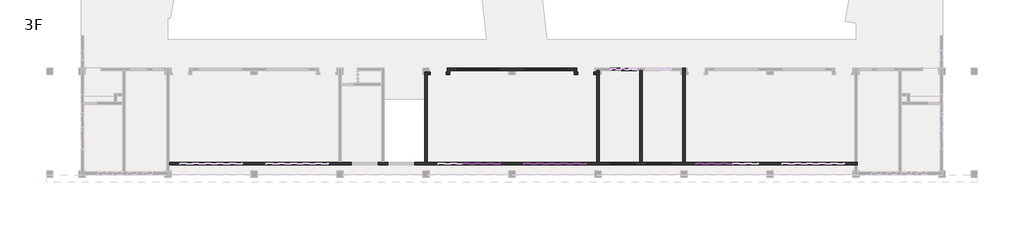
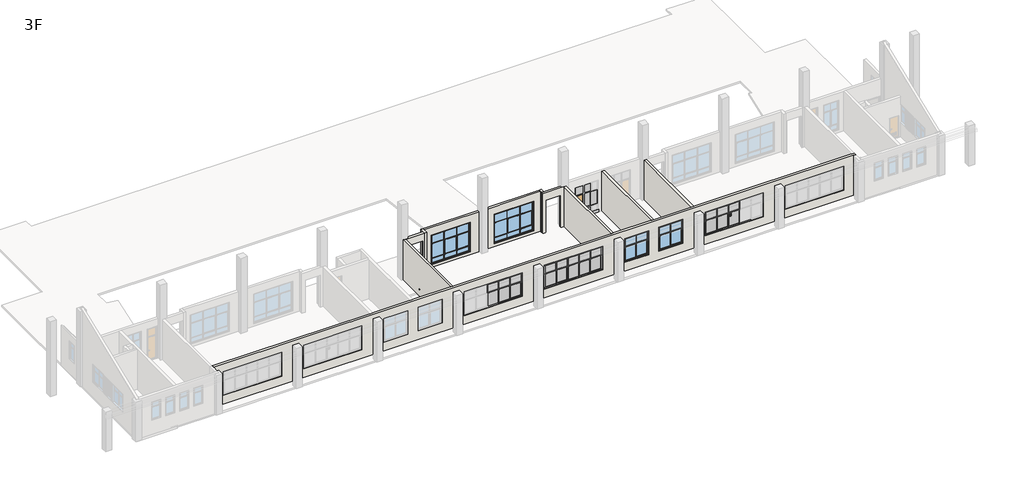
# One storey, part 3 of 9: 61 members, 23 plates, 10 walls, 4 windows, 1 door.
"""IFC4 building model written with IfcOpenShell, lengths in millimetres."""

from ifc_helpers import new_model, si_unit, frame, origin, place, context, project, spatial, polyline, outline, extrude, faceted_brep, transform, mapped, element, save
from components import door_980b777d, member_7564be38, member_1f4d75dd, member_0b7842ad, member_163d5e45, member_ffafc35e, member_2b011958, member_9c26cac3, member_6c42befd, member_a374fdad, member_d4bc27cc, member_c89433b5, member_21953a3b, member_fbd0fd80, member_b6ae775c, plate_f4dba16c, plate_1cc4df2b, plate_4fa5932a, plate_00f9c624, plate_18a10205, plate_942ffe46, plate_457c613e, plate_cc9028c0, plate_bfe47d88, plate_3a849303, lc4_lc4_4954e093, lc5_lc5_9ec79463

model = new_model("IFC4")

# Units and contexts
model_context = context("Model", 3, world=origin())
ifc_project = project(units=[si_unit("LENGTHUNIT", "METRE", prefix="MILLI")], contexts=[model_context])

# Site, building, storey
site = spatial("IfcSite", under=ifc_project)
building = spatial("IfcBuilding", under=site)
storey = spatial("IfcBuildingStorey", under=building, Name="3F", Elevation=8400.0)

# Door
placement = place(None, origin())
door_shape = door_980b777d(model_context)
element("IfcDoor", 1, ObjectType="门嵌板_单开门2 : 门嵌板_单开门2", at=placement, inside=storey, context=model_context, shape_type="MappedRepresentation", body=[
    mapped(door_shape, transform((52699.9999993, 9800.304536, 8500.0), x_axis=(-1.0, 0.0, 0.0), y_axis=(0.0, -1.0, 0.0), z_axis=(0.0, 0.0, 1.0))),
])

# Members
member_shape = member_7564be38(model_context)
element("IfcMember", 2, ObjectType="矩形竖梃 : 教学楼 – 矩形竖梃 – 100x150mm", at=placement, inside=storey, context=model_context, shape_type="MappedRepresentation", body=[
    mapped(member_shape, transform((41900.0, 990.0, 11800.0), x_axis=(0.0, 0.0, 1.0), y_axis=(0.0, -1.0, 0.0), z_axis=(1.0, 0.0, 0.0))),
])
element("IfcMember", 3, ObjectType="矩形竖梃 : 教学楼 – 矩形竖梃 – 100x150mm", at=placement, inside=storey, context=model_context, shape_type="MappedRepresentation", body=[
    mapped(member_shape, transform((49900.0, 990.0, 11800.0), x_axis=(0.0, 0.0, 1.0), y_axis=(0.0, -1.0, 0.0), z_axis=(1.0, 0.0, 0.0))),
])
element("IfcMember", 4, ObjectType="矩形竖梃 : 教学楼 – 矩形竖梃 – 100x150mm", at=placement, inside=storey, context=model_context, shape_type="MappedRepresentation", body=[
    mapped(member_shape, transform((44100.0, 990.0, 9300.0), x_axis=(0.0, 0.0, -1.0), y_axis=(0.0, -1.0, 0.0), z_axis=(-1.0, 0.0, 0.0))),
])
element("IfcMember", 5, ObjectType="矩形竖梃 : 教学楼 – 矩形竖梃 – 100x150mm", at=placement, inside=storey, context=model_context, shape_type="MappedRepresentation", body=[
    mapped(member_shape, transform((60100.0, 990.0, 9300.0), x_axis=(0.0, 0.0, -1.0), y_axis=(0.0, -1.0, 0.0), z_axis=(-1.0, 0.0, 0.0))),
])
member_2_shape = member_1f4d75dd(model_context)
element("IfcMember", 6, ObjectType="矩形竖梃 : 教学楼 – 矩形竖梃 – 50x150mm", at=placement, inside=storey, context=model_context, shape_type="MappedRepresentation", body=[
    mapped(member_2_shape, transform((39550.0, 990.0, 9400.0), x_axis=(1.0, 0.0, 0.0), y_axis=(0.0, -1.0, 0.0), z_axis=(0.0, 0.0, -1.0))),
])
element("IfcMember", 7, ObjectType="矩形竖梃 : 教学楼 – 矩形竖梃 – 50x150mm", at=placement, inside=storey, context=model_context, shape_type="MappedRepresentation", body=[
    mapped(member_2_shape, transform((46450.0, 990.0, 9400.0), x_axis=(1.0, 0.0, 0.0), y_axis=(0.0, -1.0, 0.0), z_axis=(0.0, 0.0, -1.0))),
])
element("IfcMember", 8, ObjectType="矩形竖梃 : 教学楼 – 矩形竖梃 – 50x150mm", at=placement, inside=storey, context=model_context, shape_type="MappedRepresentation", body=[
    mapped(member_2_shape, transform((47550.0, 990.0, 9400.0), x_axis=(1.0, 0.0, 0.0), y_axis=(0.0, -1.0, 0.0), z_axis=(0.0, 0.0, -1.0))),
])
element("IfcMember", 9, ObjectType="矩形竖梃 : 教学楼 – 矩形竖梃 – 50x150mm", at=placement, inside=storey, context=model_context, shape_type="MappedRepresentation", body=[
    mapped(member_2_shape, transform((62450.0, 990.0, 9400.0), x_axis=(1.0, 0.0, 0.0), y_axis=(0.0, -1.0, 0.0), z_axis=(0.0, 0.0, -1.0))),
])
element("IfcMember", 10, ObjectType="矩形竖梃 : 教学楼 – 矩形竖梃 – 50x150mm", at=placement, inside=storey, context=model_context, shape_type="MappedRepresentation", body=[
    mapped(member_2_shape, transform((63550.0, 990.0, 9400.0), x_axis=(1.0, 0.0, 0.0), y_axis=(0.0, -1.0, 0.0), z_axis=(0.0, 0.0, -1.0))),
])
member_3_shape = member_0b7842ad(model_context)
element("IfcMember", 11, ObjectType="矩形竖梃 : 教学楼 – 矩形竖梃 – 50x150mm", at=placement, inside=storey, context=model_context, shape_type="MappedRepresentation", body=[
    mapped(member_3_shape, transform((45300.0, 990.0, 10850.0), x_axis=(0.0, 0.0, 1.0), y_axis=(0.0, -1.0, 0.0), z_axis=(1.0, 0.0, 0.0))),
])
element("IfcMember", 12, ObjectType="矩形竖梃 : 教学楼 – 矩形竖梃 – 50x150mm", at=placement, inside=storey, context=model_context, shape_type="MappedRepresentation", body=[
    mapped(member_3_shape, transform((61300.0, 990.0, 10850.0), x_axis=(0.0, 0.0, 1.0), y_axis=(0.0, -1.0, 0.0), z_axis=(1.0, 0.0, 0.0))),
])
member_4_shape = member_163d5e45(model_context)
element("IfcMember", 13, ObjectType="矩形竖梃 : 教学楼 – 矩形竖梃 – 50x150mm", at=placement, inside=storey, context=model_context, shape_type="MappedRepresentation", body=[
    mapped(member_4_shape, transform((40700.0, 990.0, 10850.0), x_axis=(0.0, 0.0, 1.0), y_axis=(0.0, -1.0, 0.0), z_axis=(1.0, 0.0, 0.0))),
])
element("IfcMember", 14, ObjectType="矩形竖梃 : 教学楼 – 矩形竖梃 – 50x150mm", at=placement, inside=storey, context=model_context, shape_type="MappedRepresentation", body=[
    mapped(member_4_shape, transform((46450.0, 990.0, 10850.0), x_axis=(0.0, 0.0, 1.0), y_axis=(0.0, -1.0, 0.0), z_axis=(1.0, 0.0, 0.0))),
])
element("IfcMember", 15, ObjectType="矩形竖梃 : 教学楼 – 矩形竖梃 – 50x150mm", at=placement, inside=storey, context=model_context, shape_type="MappedRepresentation", body=[
    mapped(member_4_shape, transform((48700.0, 990.0, 10850.0), x_axis=(0.0, 0.0, 1.0), y_axis=(0.0, -1.0, 0.0), z_axis=(1.0, 0.0, 0.0))),
])
element("IfcMember", 16, ObjectType="矩形竖梃 : 教学楼 – 矩形竖梃 – 50x150mm", at=placement, inside=storey, context=model_context, shape_type="MappedRepresentation", body=[
    mapped(member_4_shape, transform((62450.0, 990.0, 10850.0), x_axis=(0.0, 0.0, 1.0), y_axis=(0.0, -1.0, 0.0), z_axis=(1.0, 0.0, 0.0))),
])
element("IfcMember", 17, ObjectType="矩形竖梃 : 教学楼 – 矩形竖梃 – 50x150mm", at=placement, inside=storey, context=model_context, shape_type="MappedRepresentation", body=[
    mapped(member_3_shape, transform((39550.0, 990.0, 10850.0), x_axis=(0.0, 0.0, 1.0), y_axis=(0.0, -1.0, 0.0), z_axis=(1.0, 0.0, 0.0))),
])
element("IfcMember", 18, ObjectType="矩形竖梃 : 教学楼 – 矩形竖梃 – 50x150mm", at=placement, inside=storey, context=model_context, shape_type="MappedRepresentation", body=[
    mapped(member_3_shape, transform((47550.0, 990.0, 10850.0), x_axis=(0.0, 0.0, 1.0), y_axis=(0.0, -1.0, 0.0), z_axis=(1.0, 0.0, 0.0))),
])
element("IfcMember", 19, ObjectType="矩形竖梃 : 教学楼 – 矩形竖梃 – 50x150mm", at=placement, inside=storey, context=model_context, shape_type="MappedRepresentation", body=[
    mapped(member_3_shape, transform((63550.0, 990.0, 10850.0), x_axis=(0.0, 0.0, 1.0), y_axis=(0.0, -1.0, 0.0), z_axis=(1.0, 0.0, 0.0))),
])
element("IfcMember", 20, ObjectType="矩形竖梃 : 教学楼 – 矩形竖梃 – 50x150mm", at=placement, inside=storey, context=model_context, shape_type="MappedRepresentation", body=[
    mapped(member_3_shape, transform((41800.0, 990.0, 10850.0), x_axis=(0.0, 0.0, 1.0), y_axis=(0.0, -1.0, 0.0), z_axis=(1.0, 0.0, 0.0))),
])
element("IfcMember", 21, ObjectType="矩形竖梃 : 教学楼 – 矩形竖梃 – 50x150mm", at=placement, inside=storey, context=model_context, shape_type="MappedRepresentation", body=[
    mapped(member_3_shape, transform((49800.0, 990.0, 10850.0), x_axis=(0.0, 0.0, 1.0), y_axis=(0.0, -1.0, 0.0), z_axis=(1.0, 0.0, 0.0))),
])
member_5_shape = member_ffafc35e(model_context)
element("IfcMember", 22, ObjectType="矩形竖梃 : 教学楼 – 矩形竖梃 – 100x150mm", at=placement, inside=storey, context=model_context, shape_type="MappedRepresentation", body=[
    mapped(member_5_shape, transform((45300.0, 990.0, 9300.0), x_axis=(0.0, 0.0, -1.0), y_axis=(0.0, -1.0, 0.0), z_axis=(-1.0, 0.0, 0.0))),
])
element("IfcMember", 23, ObjectType="矩形竖梃 : 教学楼 – 矩形竖梃 – 100x150mm", at=placement, inside=storey, context=model_context, shape_type="MappedRepresentation", body=[
    mapped(member_5_shape, transform((61300.0, 990.0, 9300.0), x_axis=(0.0, 0.0, -1.0), y_axis=(0.0, -1.0, 0.0), z_axis=(-1.0, 0.0, 0.0))),
])
member_6_shape = member_2b011958(model_context)
element("IfcMember", 24, ObjectType="矩形竖梃 : 教学楼 – 矩形竖梃 – 100x150mm", at=placement, inside=storey, context=model_context, shape_type="MappedRepresentation", body=[
    mapped(member_6_shape, transform((46450.0, 990.0, 9300.0), x_axis=(0.0, 0.0, -1.0), y_axis=(0.0, -1.0, 0.0), z_axis=(-1.0, 0.0, 0.0))),
])
element("IfcMember", 25, ObjectType="矩形竖梃 : 教学楼 – 矩形竖梃 – 100x150mm", at=placement, inside=storey, context=model_context, shape_type="MappedRepresentation", body=[
    mapped(member_6_shape, transform((62450.0, 990.0, 9300.0), x_axis=(0.0, 0.0, -1.0), y_axis=(0.0, -1.0, 0.0), z_axis=(-1.0, 0.0, 0.0))),
])
element("IfcMember", 26, ObjectType="矩形竖梃 : 教学楼 – 矩形竖梃 – 100x150mm", at=placement, inside=storey, context=model_context, shape_type="MappedRepresentation", body=[
    mapped(member_5_shape, transform((39550.0, 990.0, 9300.0), x_axis=(0.0, 0.0, -1.0), y_axis=(0.0, -1.0, 0.0), z_axis=(-1.0, 0.0, 0.0))),
])
element("IfcMember", 27, ObjectType="矩形竖梃 : 教学楼 – 矩形竖梃 – 100x150mm", at=placement, inside=storey, context=model_context, shape_type="MappedRepresentation", body=[
    mapped(member_5_shape, transform((47550.0, 990.0, 9300.0), x_axis=(0.0, 0.0, -1.0), y_axis=(0.0, -1.0, 0.0), z_axis=(-1.0, 0.0, 0.0))),
])
element("IfcMember", 28, ObjectType="矩形竖梃 : 教学楼 – 矩形竖梃 – 100x150mm", at=placement, inside=storey, context=model_context, shape_type="MappedRepresentation", body=[
    mapped(member_5_shape, transform((63550.0, 990.0, 9300.0), x_axis=(0.0, 0.0, -1.0), y_axis=(0.0, -1.0, 0.0), z_axis=(-1.0, 0.0, 0.0))),
])
element("IfcMember", 29, ObjectType="矩形竖梃 : 教学楼 – 矩形竖梃 – 100x150mm", at=placement, inside=storey, context=model_context, shape_type="MappedRepresentation", body=[
    mapped(member_shape, transform((40700.0, 990.0, 9300.0), x_axis=(0.0, 0.0, -1.0), y_axis=(0.0, -1.0, 0.0), z_axis=(-1.0, 0.0, 0.0))),
])
element("IfcMember", 30, ObjectType="矩形竖梃 : 教学楼 – 矩形竖梃 – 100x150mm", at=placement, inside=storey, context=model_context, shape_type="MappedRepresentation", body=[
    mapped(member_shape, transform((48700.0, 990.0, 9300.0), x_axis=(0.0, 0.0, -1.0), y_axis=(0.0, -1.0, 0.0), z_axis=(-1.0, 0.0, 0.0))),
])
element("IfcMember", 31, ObjectType="矩形竖梃 : 教学楼 – 矩形竖梃 – 100x150mm", at=placement, inside=storey, context=model_context, shape_type="MappedRepresentation", body=[
    mapped(member_shape, transform((45300.0, 990.0, 11800.0), x_axis=(0.0, 0.0, 1.0), y_axis=(0.0, -1.0, 0.0), z_axis=(1.0, 0.0, 0.0))),
])
element("IfcMember", 32, ObjectType="矩形竖梃 : 教学楼 – 矩形竖梃 – 100x150mm", at=placement, inside=storey, context=model_context, shape_type="MappedRepresentation", body=[
    mapped(member_shape, transform((61300.0, 990.0, 11800.0), x_axis=(0.0, 0.0, 1.0), y_axis=(0.0, -1.0, 0.0), z_axis=(1.0, 0.0, 0.0))),
])
element("IfcMember", 33, ObjectType="矩形竖梃 : 教学楼 – 矩形竖梃 – 100x150mm", at=placement, inside=storey, context=model_context, shape_type="MappedRepresentation", body=[
    mapped(member_5_shape, transform((40700.0, 990.0, 11800.0), x_axis=(0.0, 0.0, 1.0), y_axis=(0.0, -1.0, 0.0), z_axis=(1.0, 0.0, 0.0))),
])
element("IfcMember", 34, ObjectType="矩形竖梃 : 教学楼 – 矩形竖梃 – 100x150mm", at=placement, inside=storey, context=model_context, shape_type="MappedRepresentation", body=[
    mapped(member_5_shape, transform((46450.0, 990.0, 11800.0), x_axis=(0.0, 0.0, 1.0), y_axis=(0.0, -1.0, 0.0), z_axis=(1.0, 0.0, 0.0))),
])
element("IfcMember", 35, ObjectType="矩形竖梃 : 教学楼 – 矩形竖梃 – 100x150mm", at=placement, inside=storey, context=model_context, shape_type="MappedRepresentation", body=[
    mapped(member_5_shape, transform((48700.0, 990.0, 11800.0), x_axis=(0.0, 0.0, 1.0), y_axis=(0.0, -1.0, 0.0), z_axis=(1.0, 0.0, 0.0))),
])
element("IfcMember", 36, ObjectType="矩形竖梃 : 教学楼 – 矩形竖梃 – 100x150mm", at=placement, inside=storey, context=model_context, shape_type="MappedRepresentation", body=[
    mapped(member_5_shape, transform((62450.0, 990.0, 11800.0), x_axis=(0.0, 0.0, 1.0), y_axis=(0.0, -1.0, 0.0), z_axis=(1.0, 0.0, 0.0))),
])
element("IfcMember", 37, ObjectType="矩形竖梃 : 教学楼 – 矩形竖梃 – 100x150mm", at=placement, inside=storey, context=model_context, shape_type="MappedRepresentation", body=[
    mapped(member_6_shape, transform((39550.0, 990.0, 11800.0), x_axis=(0.0, 0.0, 1.0), y_axis=(0.0, -1.0, 0.0), z_axis=(1.0, 0.0, 0.0))),
])
element("IfcMember", 38, ObjectType="矩形竖梃 : 教学楼 – 矩形竖梃 – 100x150mm", at=placement, inside=storey, context=model_context, shape_type="MappedRepresentation", body=[
    mapped(member_6_shape, transform((47550.0, 990.0, 11800.0), x_axis=(0.0, 0.0, 1.0), y_axis=(0.0, -1.0, 0.0), z_axis=(1.0, 0.0, 0.0))),
])
element("IfcMember", 39, ObjectType="矩形竖梃 : 教学楼 – 矩形竖梃 – 100x150mm", at=placement, inside=storey, context=model_context, shape_type="MappedRepresentation", body=[
    mapped(member_6_shape, transform((63550.0, 990.0, 11800.0), x_axis=(0.0, 0.0, 1.0), y_axis=(0.0, -1.0, 0.0), z_axis=(1.0, 0.0, 0.0))),
])
member_7_shape = member_9c26cac3(model_context)
element("IfcMember", 40, ObjectType="矩形竖梃 : 教学楼 – 矩形竖梃 – 50x150mm", at=placement, inside=storey, context=model_context, shape_type="MappedRepresentation", body=[
    mapped(member_7_shape, transform((38450.0, 990.0, 10875.0), x_axis=(1.0, 0.0, 0.0), y_axis=(0.0, -1.0, 0.0), z_axis=(0.0, 0.0, -1.0))),
])
element("IfcMember", 41, ObjectType="矩形竖梃 : 教学楼 – 矩形竖梃 – 50x150mm", at=placement, inside=storey, context=model_context, shape_type="MappedRepresentation", body=[
    mapped(member_7_shape, transform((39550.0, 990.0, 10875.0), x_axis=(1.0, 0.0, 0.0), y_axis=(0.0, -1.0, 0.0), z_axis=(0.0, 0.0, -1.0))),
])
element("IfcMember", 42, ObjectType="矩形竖梃 : 教学楼 – 矩形竖梃 – 50x150mm", at=placement, inside=storey, context=model_context, shape_type="MappedRepresentation", body=[
    mapped(member_7_shape, transform((40700.0, 990.0, 10875.0), x_axis=(1.0, 0.0, 0.0), y_axis=(0.0, -1.0, 0.0), z_axis=(0.0, 0.0, -1.0))),
])
element("IfcMember", 43, ObjectType="矩形竖梃 : 教学楼 – 矩形竖梃 – 50x150mm", at=placement, inside=storey, context=model_context, shape_type="MappedRepresentation", body=[
    mapped(member_7_shape, transform((45300.0, 990.0, 10875.0), x_axis=(1.0, 0.0, 0.0), y_axis=(0.0, -1.0, 0.0), z_axis=(0.0, 0.0, -1.0))),
])
element("IfcMember", 44, ObjectType="矩形竖梃 : 教学楼 – 矩形竖梃 – 50x150mm", at=placement, inside=storey, context=model_context, shape_type="MappedRepresentation", body=[
    mapped(member_7_shape, transform((46450.0, 990.0, 10875.0), x_axis=(1.0, 0.0, 0.0), y_axis=(0.0, -1.0, 0.0), z_axis=(0.0, 0.0, -1.0))),
])
element("IfcMember", 45, ObjectType="矩形竖梃 : 教学楼 – 矩形竖梃 – 50x150mm", at=placement, inside=storey, context=model_context, shape_type="MappedRepresentation", body=[
    mapped(member_7_shape, transform((47550.0, 990.0, 10875.0), x_axis=(1.0, 0.0, 0.0), y_axis=(0.0, -1.0, 0.0), z_axis=(0.0, 0.0, -1.0))),
])
element("IfcMember", 46, ObjectType="矩形竖梃 : 教学楼 – 矩形竖梃 – 50x150mm", at=placement, inside=storey, context=model_context, shape_type="MappedRepresentation", body=[
    mapped(member_7_shape, transform((48700.0, 990.0, 10875.0), x_axis=(1.0, 0.0, 0.0), y_axis=(0.0, -1.0, 0.0), z_axis=(0.0, 0.0, -1.0))),
])
element("IfcMember", 47, ObjectType="矩形竖梃 : 教学楼 – 矩形竖梃 – 50x150mm", at=placement, inside=storey, context=model_context, shape_type="MappedRepresentation", body=[
    mapped(member_7_shape, transform((61300.0, 990.0, 10875.0), x_axis=(1.0, 0.0, 0.0), y_axis=(0.0, -1.0, 0.0), z_axis=(0.0, 0.0, -1.0))),
])
element("IfcMember", 48, ObjectType="矩形竖梃 : 教学楼 – 矩形竖梃 – 50x150mm", at=placement, inside=storey, context=model_context, shape_type="MappedRepresentation", body=[
    mapped(member_7_shape, transform((62450.0, 990.0, 10875.0), x_axis=(1.0, 0.0, 0.0), y_axis=(0.0, -1.0, 0.0), z_axis=(0.0, 0.0, -1.0))),
])
element("IfcMember", 49, ObjectType="矩形竖梃 : 教学楼 – 矩形竖梃 – 50x150mm", at=placement, inside=storey, context=model_context, shape_type="MappedRepresentation", body=[
    mapped(member_7_shape, transform((63550.0, 990.0, 10875.0), x_axis=(1.0, 0.0, 0.0), y_axis=(0.0, -1.0, 0.0), z_axis=(0.0, 0.0, -1.0))),
])
member_8_shape = member_6c42befd(model_context)
element("IfcMember", 50, ObjectType="矩形竖梃 : 教学楼 – 矩形竖梃 – 100x150mm", at=placement, inside=storey, context=model_context, shape_type="MappedRepresentation", body=[
    mapped(member_8_shape, transform((44100.0, 990.0, 11700.0), x_axis=(-1.0, 0.0, 0.0), y_axis=(0.0, -1.0, 0.0), z_axis=(0.0, 0.0, 1.0))),
])
element("IfcMember", 51, ObjectType="矩形竖梃 : 教学楼 – 矩形竖梃 – 100x150mm", at=placement, inside=storey, context=model_context, shape_type="MappedRepresentation", body=[
    mapped(member_8_shape, transform((60100.0, 990.0, 11700.0), x_axis=(-1.0, 0.0, 0.0), y_axis=(0.0, -1.0, 0.0), z_axis=(0.0, 0.0, 1.0))),
])
member_9_shape = member_a374fdad(model_context)
element("IfcMember", 52, ObjectType="矩形竖梃 : 教学楼 – 矩形竖梃 – 100x150mm", at=placement, inside=storey, context=model_context, shape_type="MappedRepresentation", body=[
    mapped(member_9_shape, transform((41900.0, 990.0, 9400.0), x_axis=(1.0, 0.0, 0.0), y_axis=(0.0, -1.0, 0.0), z_axis=(0.0, 0.0, -1.0))),
])
element("IfcMember", 53, ObjectType="矩形竖梃 : 教学楼 – 矩形竖梃 – 100x150mm", at=placement, inside=storey, context=model_context, shape_type="MappedRepresentation", body=[
    mapped(member_9_shape, transform((49900.0, 990.0, 9400.0), x_axis=(1.0, 0.0, 0.0), y_axis=(0.0, -1.0, 0.0), z_axis=(0.0, 0.0, -1.0))),
])
element("IfcMember", 54, ObjectType="矩形竖梃 : 教学楼 – 矩形竖梃 – 100x150mm", at=placement, inside=storey, context=model_context, shape_type="MappedRepresentation", body=[
    mapped(member_8_shape, transform((41900.0, 990.0, 10850.0), x_axis=(1.0, 0.0, 0.0), y_axis=(0.0, -1.0, 0.0), z_axis=(0.0, 0.0, -1.0))),
])
element("IfcMember", 55, ObjectType="矩形竖梃 : 教学楼 – 矩形竖梃 – 100x150mm", at=placement, inside=storey, context=model_context, shape_type="MappedRepresentation", body=[
    mapped(member_8_shape, transform((49900.0, 990.0, 10850.0), x_axis=(1.0, 0.0, 0.0), y_axis=(0.0, -1.0, 0.0), z_axis=(0.0, 0.0, -1.0))),
])
element("IfcMember", 56, ObjectType="矩形竖梃 : 教学楼 – 矩形竖梃 – 100x150mm", at=placement, inside=storey, context=model_context, shape_type="MappedRepresentation", body=[
    mapped(member_9_shape, transform((44100.0, 990.0, 10850.0), x_axis=(-1.0, 0.0, 0.0), y_axis=(0.0, -1.0, 0.0), z_axis=(0.0, 0.0, 1.0))),
])
element("IfcMember", 57, ObjectType="矩形竖梃 : 教学楼 – 矩形竖梃 – 100x150mm", at=placement, inside=storey, context=model_context, shape_type="MappedRepresentation", body=[
    mapped(member_9_shape, transform((60100.0, 990.0, 10850.0), x_axis=(-1.0, 0.0, 0.0), y_axis=(0.0, -1.0, 0.0), z_axis=(0.0, 0.0, 1.0))),
])
member_10_shape = member_d4bc27cc(model_context)
element("IfcMember", 58, ObjectType="矩形竖梃 : 教学楼 – 矩形竖梃 – 100x150mm", at=placement, inside=storey, context=model_context, shape_type="MappedRepresentation", body=[
    mapped(member_10_shape, transform((52199.9999993, 9800.304536, 8400.0), x_axis=(0.0, 0.0, -1.0), y_axis=(0.0, -1.0, 0.0), z_axis=(-1.0, 0.0, 0.0))),
])
member_11_shape = member_c89433b5(model_context)
element("IfcMember", 59, ObjectType="矩形竖梃 : 教学楼 – 矩形竖梃 – 100x150mm", at=placement, inside=storey, context=model_context, shape_type="MappedRepresentation", body=[
    mapped(member_11_shape, transform((52199.9999993, 9800.304536, 11700.0), x_axis=(-1.0, 0.0, 0.0), y_axis=(0.0, -1.0, 0.0), z_axis=(0.0, 0.0, 1.0))),
])
member_12_shape = member_21953a3b(model_context)
element("IfcMember", 60, ObjectType="矩形竖梃 : 教学楼 – 矩形竖梃 – 100x150mm", at=placement, inside=storey, context=model_context, shape_type="MappedRepresentation", body=[
    mapped(member_12_shape, transform((52199.9999993, 9800.304536, 10825.0), x_axis=(-1.0, 0.0, 0.0), y_axis=(0.0, -1.0, 0.0), z_axis=(0.0, 0.0, 1.0))),
])
member_13_shape = member_fbd0fd80(model_context)
element("IfcMember", 61, ObjectType="矩形竖梃 : 教学楼 – 矩形竖梃 – 100x150mm", at=placement, inside=storey, context=model_context, shape_type="MappedRepresentation", body=[
    mapped(member_13_shape, transform((52199.9999993, 9800.304536, 9275.0), x_axis=(-1.0, 0.0, 0.0), y_axis=(0.0, -1.0, 0.0), z_axis=(0.0, 0.0, 1.0))),
])
member_14_shape = member_b6ae775c(model_context)
element("IfcMember", 62, ObjectType="矩形竖梃 : 教学楼 – 矩形竖梃 – 100x150mm", at=placement, inside=storey, context=model_context, shape_type="MappedRepresentation", body=[
    mapped(member_14_shape, transform((52199.9999993, 9800.304536, 8700.0), x_axis=(-1.0, 0.0, 0.0), y_axis=(0.0, -1.0, 0.0), z_axis=(0.0, 0.0, 1.0))),
])

# Plates
element("IfcPlate", 63, ObjectType="教学楼 – 涂料内墙 – 200mm", at=placement, inside=storey, context=model_context, shape_type="SweptSolid", body=[
    extrude(outline(polyline([(54599.9999997, 9683.304536), (53149.9999993, 9683.304536), (53149.9999993, 9917.304536), (54599.9999997, 9917.304536), (54599.9999997, 9683.304536)])), frame((0.0, 0.0, 8400.0), z_axis=(0.0, 0.0, 1.0), x_axis=(1.0, 0.0, 0.0)), (0.0, 0.0, 1.0), 275.0),
])
plate_shape = plate_f4dba16c(model_context)
element("IfcPlate", 64, ObjectType="系统嵌板 : 玻璃", at=placement, inside=storey, context=model_context, shape_type="MappedRepresentation", body=[
    mapped(plate_shape, transform((39000.0, 990.0, 9400.0), x_axis=(1.0, 0.0, 0.0), y_axis=(0.0, 1.0, 0.0), z_axis=(0.0, 0.0, 1.0))),
])
element("IfcPlate", 65, ObjectType="系统嵌板 : 玻璃", at=placement, inside=storey, context=model_context, shape_type="MappedRepresentation", body=[
    mapped(plate_shape, transform((47000.0, 990.0, 9400.0), x_axis=(1.0, 0.0, 0.0), y_axis=(0.0, 1.0, 0.0), z_axis=(0.0, 0.0, 1.0))),
])
plate_2_shape = plate_1cc4df2b(model_context)
element("IfcPlate", 66, ObjectType="系统嵌板 : 玻璃", at=placement, inside=storey, context=model_context, shape_type="MappedRepresentation", body=[
    mapped(plate_2_shape, transform((41262.5, 990.0, 10875.0), x_axis=(1.0, 0.0, 0.0), y_axis=(0.0, 1.0, 0.0), z_axis=(0.0, 0.0, 1.0))),
])
element("IfcPlate", 67, ObjectType="系统嵌板 : 玻璃", at=placement, inside=storey, context=model_context, shape_type="MappedRepresentation", body=[
    mapped(plate_2_shape, transform((44737.5, 990.0, 10875.0), x_axis=(1.0, 0.0, 0.0), y_axis=(0.0, 1.0, 0.0), z_axis=(0.0, 0.0, 1.0))),
])
element("IfcPlate", 68, ObjectType="系统嵌板 : 玻璃", at=placement, inside=storey, context=model_context, shape_type="MappedRepresentation", body=[
    mapped(plate_2_shape, transform((49262.5, 990.0, 10875.0), x_axis=(1.0, 0.0, 0.0), y_axis=(0.0, 1.0, 0.0), z_axis=(0.0, 0.0, 1.0))),
])
element("IfcPlate", 69, ObjectType="系统嵌板 : 玻璃", at=placement, inside=storey, context=model_context, shape_type="MappedRepresentation", body=[
    mapped(plate_2_shape, transform((60737.5, 990.0, 10875.0), x_axis=(1.0, 0.0, 0.0), y_axis=(0.0, 1.0, 0.0), z_axis=(0.0, 0.0, 1.0))),
])
plate_3_shape = plate_4fa5932a(model_context)
element("IfcPlate", 70, ObjectType="系统嵌板 : 玻璃", at=placement, inside=storey, context=model_context, shape_type="MappedRepresentation", body=[
    mapped(plate_3_shape, transform((40125.0, 990.0, 10875.0), x_axis=(1.0, 0.0, 0.0), y_axis=(0.0, 1.0, 0.0), z_axis=(0.0, 0.0, 1.0))),
])
element("IfcPlate", 71, ObjectType="系统嵌板 : 玻璃", at=placement, inside=storey, context=model_context, shape_type="MappedRepresentation", body=[
    mapped(plate_3_shape, transform((45875.0, 990.0, 10875.0), x_axis=(1.0, 0.0, 0.0), y_axis=(0.0, 1.0, 0.0), z_axis=(0.0, 0.0, 1.0))),
])
element("IfcPlate", 72, ObjectType="系统嵌板 : 玻璃", at=placement, inside=storey, context=model_context, shape_type="MappedRepresentation", body=[
    mapped(plate_3_shape, transform((48125.0, 990.0, 10875.0), x_axis=(1.0, 0.0, 0.0), y_axis=(0.0, 1.0, 0.0), z_axis=(0.0, 0.0, 1.0))),
])
element("IfcPlate", 73, ObjectType="系统嵌板 : 玻璃", at=placement, inside=storey, context=model_context, shape_type="MappedRepresentation", body=[
    mapped(plate_3_shape, transform((61875.0, 990.0, 10875.0), x_axis=(1.0, 0.0, 0.0), y_axis=(0.0, 1.0, 0.0), z_axis=(0.0, 0.0, 1.0))),
])
plate_4_shape = plate_00f9c624(model_context)
element("IfcPlate", 74, ObjectType="系统嵌板 : 玻璃", at=placement, inside=storey, context=model_context, shape_type="MappedRepresentation", body=[
    mapped(plate_4_shape, transform((39000.0, 990.0, 10875.0), x_axis=(1.0, 0.0, 0.0), y_axis=(0.0, 1.0, 0.0), z_axis=(0.0, 0.0, 1.0))),
])
element("IfcPlate", 75, ObjectType="系统嵌板 : 玻璃", at=placement, inside=storey, context=model_context, shape_type="MappedRepresentation", body=[
    mapped(plate_4_shape, transform((47000.0, 990.0, 10875.0), x_axis=(1.0, 0.0, 0.0), y_axis=(0.0, 1.0, 0.0), z_axis=(0.0, 0.0, 1.0))),
])
element("IfcPlate", 76, ObjectType="系统嵌板 : 玻璃", at=placement, inside=storey, context=model_context, shape_type="MappedRepresentation", body=[
    mapped(plate_4_shape, transform((63000.0, 990.0, 10875.0), x_axis=(1.0, 0.0, 0.0), y_axis=(0.0, 1.0, 0.0), z_axis=(0.0, 0.0, 1.0))),
])
plate_5_shape = plate_18a10205(model_context)
element("IfcPlate", 77, ObjectType="教学楼 - 窗嵌板：双扇推拉窗 : 教学楼 - 窗嵌板：双扇推拉窗", at=placement, inside=storey, context=model_context, shape_type="MappedRepresentation", body=[
    mapped(plate_5_shape, transform((45312.5, 990.0, 9400.0), x_axis=(1.0, 0.0, 0.0), y_axis=(0.0, 1.0, 0.0), z_axis=(0.0, 0.0, 1.0))),
])
element("IfcPlate", 78, ObjectType="教学楼 - 窗嵌板：双扇推拉窗 : 教学楼 - 窗嵌板：双扇推拉窗", at=placement, inside=storey, context=model_context, shape_type="MappedRepresentation", body=[
    mapped(plate_5_shape, transform((61312.5, 990.0, 9400.0), x_axis=(1.0, 0.0, 0.0), y_axis=(0.0, 1.0, 0.0), z_axis=(0.0, 0.0, 1.0))),
])
element("IfcPlate", 79, ObjectType="教学楼 - 窗嵌板：双扇推拉窗 : 教学楼 - 窗嵌板：双扇推拉窗", at=placement, inside=storey, context=model_context, shape_type="MappedRepresentation", body=[
    mapped(plate_5_shape, transform((40687.5, 990.0, 9400.0), x_axis=(1.0, 0.0, 0.0), y_axis=(0.0, 1.0, 0.0), z_axis=(0.0, 0.0, 1.0))),
])
element("IfcPlate", 80, ObjectType="教学楼 - 窗嵌板：双扇推拉窗 : 教学楼 - 窗嵌板：双扇推拉窗", at=placement, inside=storey, context=model_context, shape_type="MappedRepresentation", body=[
    mapped(plate_5_shape, transform((48687.5, 990.0, 9400.0), x_axis=(1.0, 0.0, 0.0), y_axis=(0.0, 1.0, 0.0), z_axis=(0.0, 0.0, 1.0))),
])
plate_6_shape = plate_942ffe46(model_context)
element("IfcPlate", 81, ObjectType="教学楼 - 窗嵌板：外贴消防通道 : 教学楼 - 窗嵌板：外贴消防通道", at=placement, inside=storey, context=model_context, shape_type="MappedRepresentation", body=[
    mapped(plate_6_shape, transform((63000.0, 990.0, 9400.0), x_axis=(1.0, 0.0, 0.0), y_axis=(0.0, 1.0, 0.0), z_axis=(0.0, 0.0, 1.0))),
])
plate_7_shape = plate_457c613e(model_context)
element("IfcPlate", 82, ObjectType="系统嵌板 : 玻璃", at=placement, inside=storey, context=model_context, shape_type="MappedRepresentation", body=[
    mapped(plate_7_shape, transform((52699.9999993, 9800.304536, 10850.0), x_axis=(1.0, 0.0, 0.0), y_axis=(0.0, 1.0, 0.0), z_axis=(0.0, 0.0, 1.0))),
])
plate_8_shape = plate_cc9028c0(model_context)
element("IfcPlate", 83, ObjectType="系统嵌板 : 玻璃", at=placement, inside=storey, context=model_context, shape_type="MappedRepresentation", body=[
    mapped(plate_8_shape, transform((53499.9999995, 9800.304536, 10850.0), x_axis=(1.0, 0.0, 0.0), y_axis=(0.0, 1.0, 0.0), z_axis=(0.0, 0.0, 1.0))),
])
plate_9_shape = plate_bfe47d88(model_context)
element("IfcPlate", 84, ObjectType="教学楼 - 窗嵌板：双扇推拉窗 : 教学楼 - 窗嵌板：双扇推拉窗", at=placement, inside=storey, context=model_context, shape_type="MappedRepresentation", body=[
    mapped(plate_9_shape, transform((53824.9999995, 9800.304536, 9300.0), x_axis=(1.0, 0.0, 0.0), y_axis=(0.0, 1.0, 0.0), z_axis=(0.0, 0.0, 1.0))),
])
plate_10_shape = plate_3a849303(model_context)
element("IfcPlate", 85, ObjectType="系统嵌板 : 玻璃", at=placement, inside=storey, context=model_context, shape_type="MappedRepresentation", body=[
    mapped(plate_10_shape, transform((53499.9999995, 9800.304536, 8725.0), x_axis=(1.0, 0.0, 0.0), y_axis=(0.0, 1.0, 0.0), z_axis=(0.0, 0.0, 1.0))),
])

# Walls
element("IfcWall", 86, ObjectType="教学楼 – 饰面砖外墙 – 200mm", at=placement, inside=storey, context=model_context, shape_type="Brep", body=[
    faceted_brep([(11133.0, 875.0, 8400.0), (74867.0, 875.0, 8400.0), (75117.0, 875.0, 8400.0), (75117.0, 875.0, 12600.0), (74867.0, 875.0, 12600.0), (11133.0, 875.0, 12600.0), (68099.9999993, 875.0, 9300.0), (68099.9999993, 875.0, 11800.0), (73899.9999993, 875.0, 11800.0), (73899.9999993, 875.0, 9300.0), (60100.0, 875.0, 9300.0), (60100.0, 875.0, 11800.0), (65900.0, 875.0, 11800.0), (65900.0, 875.0, 9300.0), (44100.0, 875.0, 9300.0), (44100.0, 875.0, 11800.0), (49900.0, 875.0, 11800.0), (49900.0, 875.0, 9300.0), (36100.0, 875.0, 9300.0), (36100.0, 875.0, 11800.0), (41900.0, 875.0, 11800.0), (41900.0, 875.0, 9300.0), (20100.0, 875.0, 9300.0), (20100.0, 875.0, 11800.0), (25900.0, 875.0, 11800.0), (25900.0, 875.0, 9300.0), (12099.9999993, 875.0, 9300.0), (12099.9999993, 875.0, 11800.0), (17899.9999993, 875.0, 11800.0), (17899.9999993, 875.0, 9300.0), (55499.9999993, 875.0, 9300.0), (55499.9999993, 875.0, 11800.0), (57899.9999993, 875.0, 11800.0), (57899.9999993, 875.0, 9300.0), (54499.9999999, 875.0, 11800.0), (54499.9999999, 875.0, 9300.0), (52099.9999999, 875.0, 9300.0), (52099.9999999, 875.0, 11800.0), (31499.9999993, 875.0, 9300.0), (31499.9999993, 875.0, 11800.0), (33899.9999993, 875.0, 11800.0), (33899.9999993, 875.0, 9300.0), (30499.9999993, 875.0, 11800.0), (30499.9999993, 875.0, 9300.0), (28099.9999993, 875.0, 9300.0), (28099.9999993, 875.0, 11800.0), (75117.0, 1125.0, 8400.0), (74883.0, 1125.0, 8400.0), (59117.0, 1125.0, 8400.0), (58883.0, 1125.0, 8400.0), (55116.9999999, 1125.0, 8400.0), (54882.9999999, 1125.0, 8400.0), (51117.0, 1125.0, 8400.0), (50883.0, 1125.0, 8400.0), (35117.0, 1125.0, 8400.0), (34883.0, 1125.0, 8400.0), (31117.0000029, 1125.0, 8400.0), (30883.0000029, 1125.0, 8400.0), (27117.0, 1125.0, 8400.0), (26883.0, 1125.0, 8400.0), (11133.0, 1125.0, 8400.0), (11133.0, 1125.0, 12600.0), (26883.0, 1125.0, 12600.0), (27117.0, 1125.0, 12600.0), (30883.0000029, 1125.0, 12600.0), (31117.0000029, 1125.0, 12600.0), (34883.0, 1125.0, 12600.0), (35117.0, 1125.0, 12600.0), (50883.0, 1125.0, 12600.0), (51117.0, 1125.0, 12600.0), (54882.9999999, 1125.0, 12600.0), (55116.9999999, 1125.0, 12600.0), (58883.0, 1125.0, 12600.0), (59117.0, 1125.0, 12600.0), (74883.0, 1125.0, 12600.0), (75117.0, 1125.0, 12600.0), (68099.9999993, 1125.0, 11800.0), (68099.9999993, 1125.0, 9300.0), (73899.9999993, 1125.0, 9300.0), (73899.9999993, 1125.0, 11800.0), (60100.0, 1125.0, 11800.0), (60100.0, 1125.0, 9300.0), (65900.0, 1125.0, 9300.0), (65900.0, 1125.0, 11800.0), (44100.0, 1125.0, 11800.0), (44100.0, 1125.0, 9300.0), (49900.0, 1125.0, 9300.0), (49900.0, 1125.0, 11800.0), (36100.0, 1125.0, 11800.0), (36100.0, 1125.0, 9300.0), (41900.0, 1125.0, 9300.0), (41900.0, 1125.0, 11800.0), (20100.0, 1125.0, 11800.0), (20100.0, 1125.0, 9300.0), (25900.0, 1125.0, 9300.0), (25900.0, 1125.0, 11800.0), (12099.9999993, 1125.0, 11800.0), (12099.9999993, 1125.0, 9300.0), (17899.9999993, 1125.0, 9300.0), (17899.9999993, 1125.0, 11800.0), (55499.9999993, 1125.0, 11800.0), (55499.9999993, 1125.0, 9300.0), (57899.9999993, 1125.0, 9300.0), (57899.9999993, 1125.0, 11800.0), (54499.9999999, 1125.0, 9300.0), (54499.9999999, 1125.0, 11800.0), (52099.9999999, 1125.0, 11800.0), (52099.9999999, 1125.0, 9300.0), (31499.9999993, 1125.0, 11800.0), (31499.9999993, 1125.0, 9300.0), (33899.9999993, 1125.0, 9300.0), (33899.9999993, 1125.0, 11800.0), (30499.9999993, 1125.0, 9300.0), (30499.9999993, 1125.0, 11800.0), (28099.9999993, 1125.0, 11800.0), (28099.9999993, 1125.0, 9300.0)], [[[0, 1, 2, 3, 4, 5], [6, 7, 8, 9], [10, 11, 12, 13], [14, 15, 16, 17], [18, 19, 20, 21], [22, 23, 24, 25], [26, 27, 28, 29], [30, 31, 32, 33], [34, 35, 36, 37], [38, 39, 40, 41], [42, 43, 44, 45]], [[46, 47, 48, 49, 50, 51, 52, 53, 54, 55, 56, 57, 58, 59, 60, 61, 62, 63, 64, 65, 66, 67, 68, 69, 70, 71, 72, 73, 74, 75], [76, 77, 78, 79], [80, 81, 82, 83], [84, 85, 86, 87], [88, 89, 90, 91], [92, 93, 94, 95], [96, 97, 98, 99], [100, 101, 102, 103], [104, 105, 106, 107], [108, 109, 110, 111], [112, 113, 114, 115]], [[2, 1, 0, 60, 59, 58, 57, 56, 55, 54, 53, 52, 51, 50, 49, 48, 47, 46]], [[5, 4, 3, 75, 74, 73, 72, 71, 70, 69, 68, 67, 66, 65, 64, 63, 62, 61]], [[0, 5, 61, 60]], [[3, 2, 46, 75]], [[6, 77, 76, 7]], [[7, 76, 79, 8]], [[8, 79, 78, 9]], [[77, 6, 9, 78]], [[10, 81, 80, 11]], [[11, 80, 83, 12]], [[12, 83, 82, 13]], [[81, 10, 13, 82]], [[14, 85, 84, 15]], [[15, 84, 87, 16]], [[16, 87, 86, 17]], [[85, 14, 17, 86]], [[18, 89, 88, 19]], [[19, 88, 91, 20]], [[20, 91, 90, 21]], [[89, 18, 21, 90]], [[22, 93, 92, 23]], [[23, 92, 95, 24]], [[24, 95, 94, 25]], [[93, 22, 25, 94]], [[26, 97, 96, 27]], [[27, 96, 99, 28]], [[28, 99, 98, 29]], [[97, 26, 29, 98]], [[31, 30, 101, 100]], [[32, 31, 100, 103]], [[33, 32, 103, 102]], [[30, 33, 102, 101]], [[105, 104, 35, 34]], [[106, 105, 34, 37]], [[107, 106, 37, 36]], [[104, 107, 36, 35]], [[39, 38, 109, 108]], [[40, 39, 108, 111]], [[41, 40, 111, 110]], [[38, 41, 110, 109]], [[113, 112, 43, 42]], [[114, 113, 42, 45]], [[115, 114, 45, 44]], [[112, 115, 44, 43]]]),
])
element("IfcWall", 87, ObjectType="教学楼 – 涂料内墙 – 200mm", at=placement, inside=storey, context=model_context, shape_type="Brep", body=[
    faceted_brep([(35117.0, 1125.0, 8400.0), (35117.0, 9283.0, 8400.0), (35117.0, 9283.2768988, 8400.0), (35117.0, 9517.2768988, 8400.0), (35117.0, 9517.2768988, 12600.0), (35117.0, 9283.2768988, 12600.0), (35117.0, 9283.0, 12600.0), (35117.0, 1125.0, 12600.0), (34883.0, 1125.0, 8400.0), (34883.0, 1125.0, 12600.0), (34883.0, 9283.0, 12600.0), (34883.0, 9517.2768988, 12600.0), (34883.0, 9517.2768988, 8400.0), (34883.0, 9283.0, 8400.0)], [[[0, 1, 2, 3, 4, 5, 6, 7]], [[8, 9, 10, 11, 12, 13]], [[3, 2, 1, 0, 8, 13, 12]], [[7, 6, 5, 4, 11, 10, 9]], [[4, 3, 12, 11]], [[0, 7, 9, 8]]]),
])
element("IfcWall", 88, ObjectType="教学楼 – 涂料内墙 – 200mm", at=placement, inside=storey, context=model_context, shape_type="Brep", body=[
    faceted_brep([(51117.0, 1125.0, 8400.0), (51117.0, 9283.0, 8400.0), (51117.0, 9683.304536, 8400.0), (51117.0, 9683.304536, 12600.0), (51117.0, 9283.0, 12600.0), (51117.0, 1125.0, 12600.0), (50883.0, 1125.0, 8400.0), (50883.0, 1125.0, 12600.0), (50883.0, 9283.0, 12600.0), (50883.0, 9283.2768993, 12600.0), (50883.0, 9517.2768993, 12600.0), (50883.0, 9683.304536, 12600.0), (50883.0, 9683.304536, 8400.0), (50883.0, 9517.2768993, 8400.0), (50883.0, 9283.2768993, 8400.0), (50883.0, 9283.0, 8400.0)], [[[0, 1, 2, 3, 4, 5]], [[6, 7, 8, 9, 10, 11, 12, 13, 14, 15]], [[2, 1, 0, 6, 15, 14, 13, 12]], [[5, 4, 3, 11, 10, 9, 8, 7]], [[0, 5, 7, 6]], [[3, 2, 12, 11]]]),
])
element("IfcWall", 89, ObjectType="教学楼 – 涂料内墙 – 200mm", at=placement, inside=storey, context=model_context, shape_type="Brep", body=[
    faceted_brep([(48783.0000007, 9517.2768993, 12600.0), (49017.0000007, 9517.2768993, 12600.0), (50683.0, 9517.2768993, 12600.0), (50883.0, 9517.2768993, 12600.0), (50883.0, 9517.2768993, 8400.0), (50683.0, 9517.2768993, 8400.0), (50599.9999991, 9517.2768993, 8400.0), (50599.9999991, 9517.2768993, 11800.0), (49099.9999991, 9517.2768993, 11800.0), (49099.9999991, 9517.2768993, 8400.0), (49017.0000007, 9517.2768993, 8400.0), (48783.0000007, 9517.2768993, 8400.0), (50883.0, 9283.2768993, 12600.0), (50683.0, 9283.2768993, 12600.0), (48783.0000007, 9283.2768993, 12600.0), (48783.0000007, 9283.2768993, 8400.0), (49099.9999991, 9283.2768993, 8400.0), (49099.9999991, 9283.2768993, 11800.0), (50599.9999991, 9283.2768993, 11800.0), (50599.9999991, 9283.2768993, 8400.0), (50683.0, 9283.2768993, 8400.0), (50883.0, 9283.2768993, 8400.0)], [[[0, 1, 2, 3, 4, 5, 6, 7, 8, 9, 10, 11]], [[12, 13, 14, 15, 16, 17, 18, 19, 20, 21]], [[15, 11, 10, 9, 16]], [[4, 21, 20, 19, 6, 5]], [[3, 2, 1, 0, 14, 13, 12]], [[0, 11, 15, 14]], [[18, 7, 6, 19]], [[7, 18, 17, 8]], [[8, 17, 16, 9]], [[4, 3, 12, 21]]]),
])
element("IfcWall", 90, ObjectType="教学楼 – 涂料内墙 – 200mm", at=placement, inside=storey, context=model_context, shape_type="Brep", body=[
    faceted_brep([(49017.0000007, 9517.2768993, 8400.0), (49017.0000007, 9917.304536, 8400.0), (49017.0000007, 9917.304536, 12600.0), (49017.0000007, 9517.2768993, 12600.0), (48783.0000007, 9517.2768993, 8400.0), (48783.0000007, 9517.2768993, 12600.0), (48783.0000007, 9683.304536, 12600.0), (48783.0000007, 9917.304536, 12600.0), (48783.0000007, 9917.304536, 8400.0), (48783.0000007, 9683.304536, 8400.0)], [[[0, 1, 2, 3]], [[4, 5, 6, 7, 8, 9]], [[1, 0, 4, 9, 8]], [[3, 2, 7, 6, 5]], [[0, 3, 5, 4]], [[2, 1, 8, 7]]]),
])
element("IfcWall", 91, ObjectType="教学楼 – 涂料内墙 – 200mm", at=placement, inside=storey, context=model_context, shape_type="Brep", body=[
    faceted_brep([(48783.0000007, 9917.304536, 8400.0), (37216.999999, 9917.304536, 8400.0), (37216.999999, 9917.304536, 12600.0), (48783.0000007, 9917.304536, 12600.0), (48099.9999993, 9917.304536, 8700.0), (48099.9999993, 9917.304536, 11800.0), (44199.9999993, 9917.304536, 11800.0), (44199.9999993, 9917.304536, 8700.0), (41799.9999993, 9917.304536, 8700.0), (41799.9999993, 9917.304536, 11800.0), (37899.9999993, 9917.304536, 11800.0), (37899.9999993, 9917.304536, 8700.0), (48783.0000007, 9683.304536, 8400.0), (48783.0000007, 9683.304536, 12600.0), (43317.0, 9683.304536, 12600.0), (42683.0, 9683.304536, 12600.0), (37216.999999, 9683.304536, 12600.0), (37216.999999, 9683.304536, 8400.0), (42683.0, 9683.304536, 8400.0), (43317.0, 9683.304536, 8400.0), (48099.9999993, 9683.304536, 8700.0), (44199.9999993, 9683.304536, 8700.0), (44199.9999993, 9683.304536, 11800.0), (48099.9999993, 9683.304536, 11800.0), (41799.9999993, 9683.304536, 8700.0), (37899.9999993, 9683.304536, 8700.0), (37899.9999993, 9683.304536, 11800.0), (41799.9999993, 9683.304536, 11800.0)], [[[0, 1, 2, 3], [4, 5, 6, 7], [8, 9, 10, 11]], [[12, 13, 14, 15, 16, 17, 18, 19], [20, 21, 22, 23], [24, 25, 26, 27]], [[1, 0, 12, 19, 18, 17]], [[3, 2, 16, 15, 14, 13]], [[0, 3, 13, 12]], [[2, 1, 17, 16]], [[5, 4, 20, 23]], [[6, 5, 23, 22]], [[7, 6, 22, 21]], [[4, 7, 21, 20]], [[9, 8, 24, 27]], [[10, 9, 27, 26]], [[11, 10, 26, 25]], [[8, 11, 25, 24]]]),
])
element("IfcWall", 92, ObjectType="教学楼 – 涂料内墙 – 200mm", at=placement, inside=storey, context=model_context, shape_type="Brep", body=[
    faceted_brep([(36982.999999, 9917.304536, 8400.0), (36982.999999, 9517.2768988, 8400.0), (36982.999999, 9283.2768988, 8400.0), (36982.999999, 9283.2768988, 12600.0), (36982.999999, 9517.2768988, 12600.0), (36982.999999, 9917.304536, 12600.0), (37216.999999, 9917.304536, 8400.0), (37216.999999, 9917.304536, 12600.0), (37216.999999, 9683.304536, 12600.0), (37216.999999, 9283.2768988, 12600.0), (37216.999999, 9283.2768988, 8400.0), (37216.999999, 9683.304536, 8400.0)], [[[0, 1, 2, 3, 4, 5]], [[6, 7, 8, 9, 10, 11]], [[2, 1, 0, 6, 11, 10]], [[5, 4, 3, 9, 8, 7]], [[3, 2, 10, 9]], [[0, 5, 7, 6]]]),
])
element("IfcWall", 93, ObjectType="教学楼 – 涂料内墙 – 200mm", at=placement, inside=storey, context=model_context, shape_type="Brep", body=[
    faceted_brep([(35117.0, 9517.2768988, 12600.0), (35317.0, 9517.2768988, 12600.0), (36982.999999, 9517.2768988, 12600.0), (36982.999999, 9517.2768988, 8400.0), (36900.0000009, 9517.2768988, 8400.0), (36900.0000009, 9517.2768988, 11800.0), (35400.0000009, 9517.2768988, 11800.0), (35400.0000009, 9517.2768988, 8400.0), (35317.0, 9517.2768988, 8400.0), (35117.0, 9517.2768988, 8400.0), (36982.999999, 9283.2768988, 12600.0), (35317.0, 9283.2768988, 12600.0), (35117.0, 9283.2768988, 12600.0), (35117.0, 9283.2768988, 8400.0), (35317.0, 9283.2768988, 8400.0), (35400.0000009, 9283.2768988, 8400.0), (35400.0000009, 9283.2768988, 11800.0), (36900.0000009, 9283.2768988, 11800.0), (36900.0000009, 9283.2768988, 8400.0), (36982.999999, 9283.2768988, 8400.0)], [[[0, 1, 2, 3, 4, 5, 6, 7, 8, 9]], [[10, 11, 12, 13, 14, 15, 16, 17, 18, 19]], [[3, 19, 18, 4]], [[13, 9, 8, 7, 15, 14]], [[2, 1, 0, 12, 11, 10]], [[3, 2, 10, 19]], [[0, 9, 13, 12]], [[17, 5, 4, 18]], [[5, 17, 16, 6]], [[6, 16, 15, 7]]]),
])
element("IfcWall", 94, ObjectType="教学楼 – 涂料内墙 – 200mm", at=placement, inside=storey, context=model_context, shape_type="SweptSolid", body=[
    extrude(outline(polyline([(55116.9999999, 9683.304536), (55116.9999999, 1125.0), (54882.9999999, 1125.0), (54882.9999999, 9683.304536), (55116.9999999, 9683.304536)])), frame((0.0, 0.0, 8400.0), z_axis=(0.0, 0.0, 1.0), x_axis=(1.0, 0.0, 0.0)), (0.0, 0.0, 1.0), 4200.0),
])
element("IfcWall", 95, ObjectType="教学楼 – 涂料内墙 – 200mm", at=placement, inside=storey, context=model_context, shape_type="Brep", body=[
    faceted_brep([(59117.0, 1125.0, 8400.0), (59117.0, 9282.6678267, 8400.0), (59117.0, 9516.6678267, 8400.0), (59117.0, 9917.0, 8400.0), (59117.0, 9917.304536, 8400.0), (59117.0, 9917.304536, 12600.0), (59117.0, 9917.0, 12600.0), (59117.0, 9516.6678267, 12600.0), (59117.0, 9282.6678267, 12600.0), (59117.0, 1125.0, 12600.0), (58883.0, 1125.0, 8400.0), (58883.0, 1125.0, 12600.0), (58883.0, 9283.0, 12600.0), (58883.0, 9683.304536, 12600.0), (58883.0, 9917.304536, 12600.0), (58883.0, 9917.304536, 8400.0), (58883.0, 9683.304536, 8400.0), (58883.0, 9283.0, 8400.0)], [[[0, 1, 2, 3, 4, 5, 6, 7, 8, 9]], [[10, 11, 12, 13, 14, 15, 16, 17]], [[4, 3, 2, 1, 0, 10, 17, 16, 15]], [[9, 8, 7, 6, 5, 14, 13, 12, 11]], [[0, 9, 11, 10]], [[5, 4, 15, 14]]]),
])

# Windows
lc4_lc4_shape = lc4_lc4_4954e093(model_context)
element("IfcWindow", 96, ObjectType="LC4 : LC4", at=placement, inside=storey, context=model_context, shape_type="MappedRepresentation", body=[
    mapped(lc4_lc4_shape, transform((53299.9999999, 1008.6988661, 8400.0), x_axis=(-1.0, 0.0, 0.0), y_axis=(0.0, -1.0, 0.0), z_axis=(0.0, 0.0, 1.0))),
])
element("IfcWindow", 97, ObjectType="LC4 : LC4", at=placement, inside=storey, context=model_context, shape_type="MappedRepresentation", body=[
    mapped(lc4_lc4_shape, transform((56699.9999993, 991.3011339, 8400.0), x_axis=(1.0, 0.0, 0.0), y_axis=(0.0, 1.0, 0.0), z_axis=(0.0, 0.0, 1.0))),
])
lc5_lc5_shape = lc5_lc5_9ec79463(model_context)
element("IfcWindow", 98, ObjectType="LC5 : LC5", at=placement, inside=storey, context=model_context, shape_type="MappedRepresentation", body=[
    mapped(lc5_lc5_shape, transform((39849.9999993, 9800.304536, 8400.0), x_axis=(-1.0, 0.0, 0.0), y_axis=(0.0, -1.0, 0.0), z_axis=(0.0, 0.0, 1.0))),
])
element("IfcWindow", 99, ObjectType="LC5 : LC5", at=placement, inside=storey, context=model_context, shape_type="MappedRepresentation", body=[
    mapped(lc5_lc5_shape, transform((46149.9999993, 9800.304536, 8400.0), x_axis=(-1.0, 0.0, 0.0), y_axis=(0.0, -1.0, 0.0), z_axis=(0.0, 0.0, 1.0))),
])

save(model, "model.ifc")
